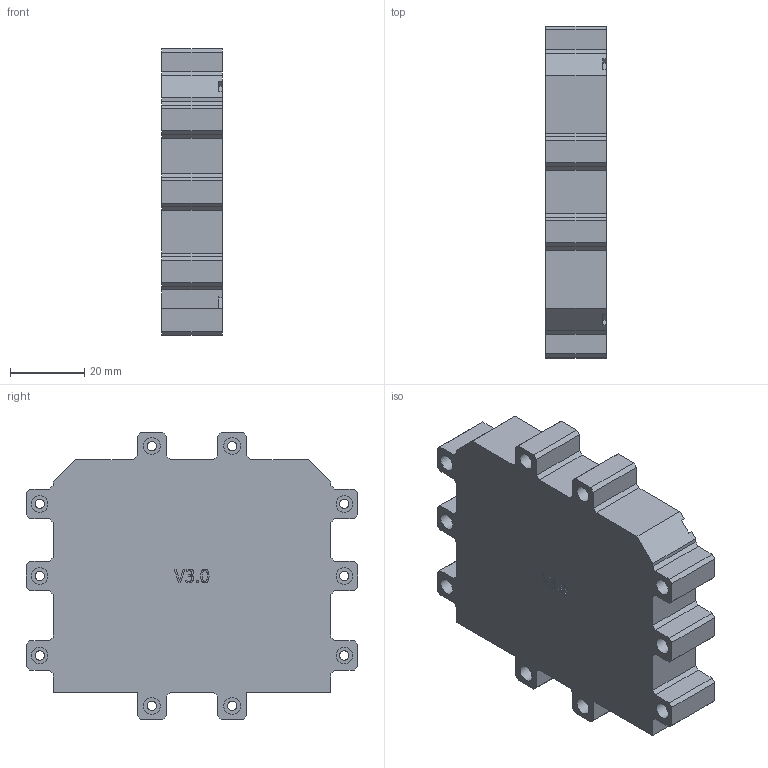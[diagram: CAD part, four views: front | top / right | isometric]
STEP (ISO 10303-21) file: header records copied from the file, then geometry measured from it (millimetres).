
FILE_DESCRIPTION(/* description */ (''),/* implementation_level */ '2;1');
FILE_NAME(/* name */ 'lower_mold.stp',/* time_stamp */ '2025-08-17T18:01:26+02:00',/* author */ ('MehdiBelhadj'),/* organization */ (''),/* preprocessor_version */ 'ST-DEVELOPER v20.1',/* originating_system */ 'Autodesk Inventor 2026',/* authorisation */ '');
FILE_SCHEMA (('AUTOMOTIVE_DESIGN { 1 0 10303 214 3 1 1 }'));
Length unit declared in the file: millimetre
Products named in the file (1): Mold_Bottom
Bounding box: 16.41 x 89.6 x 77.5 mm (x, y, z)
Volume: 64445.9 mm3; surface area: 20971.5 mm2
Topology: 1 solids, 1 shells, 241 faces, 655 edges, 431 vertices
Faces by surface type: plane 162, cylinder 36, bspline 31, torus 12
Full cylindrical faces by diameter (mm): 2.5 x10, 4.5 x10
Entity records: 8196 total; most frequent: CARTESIAN_POINT 1939, ORIENTED_EDGE 1310, DIRECTION 1083, EDGE_CURVE 655, LINE 501, VECTOR 501, VERTEX_POINT 431, AXIS2_PLACEMENT_3D 291
